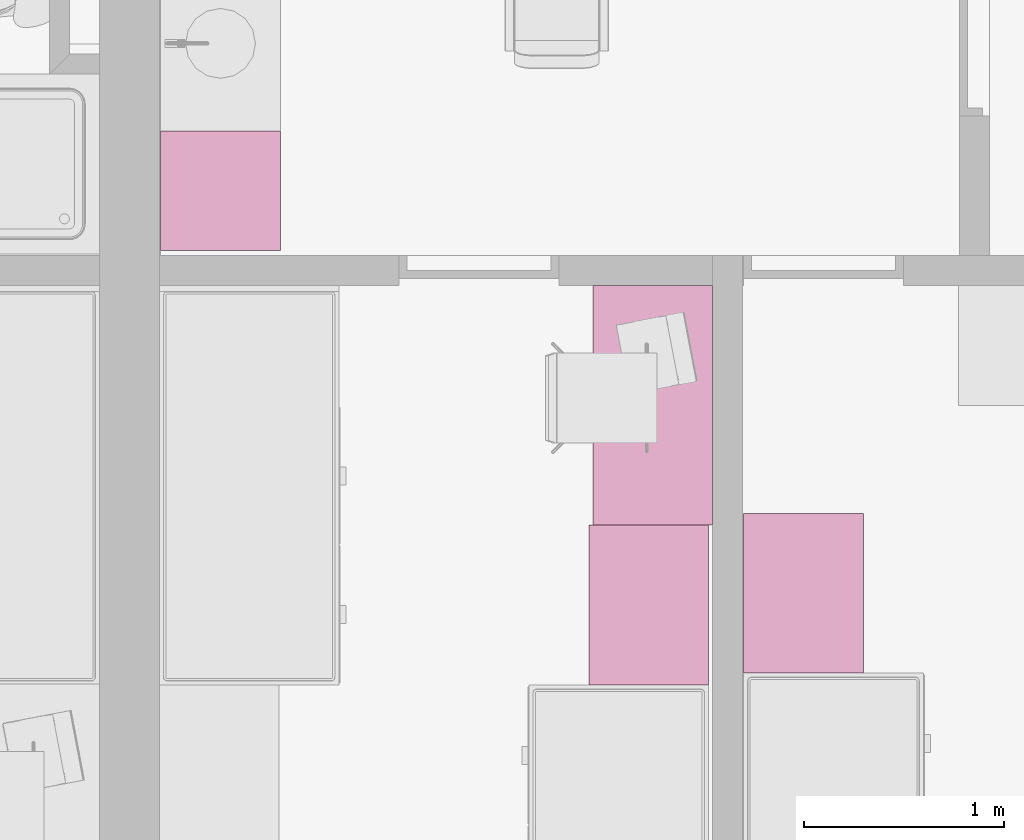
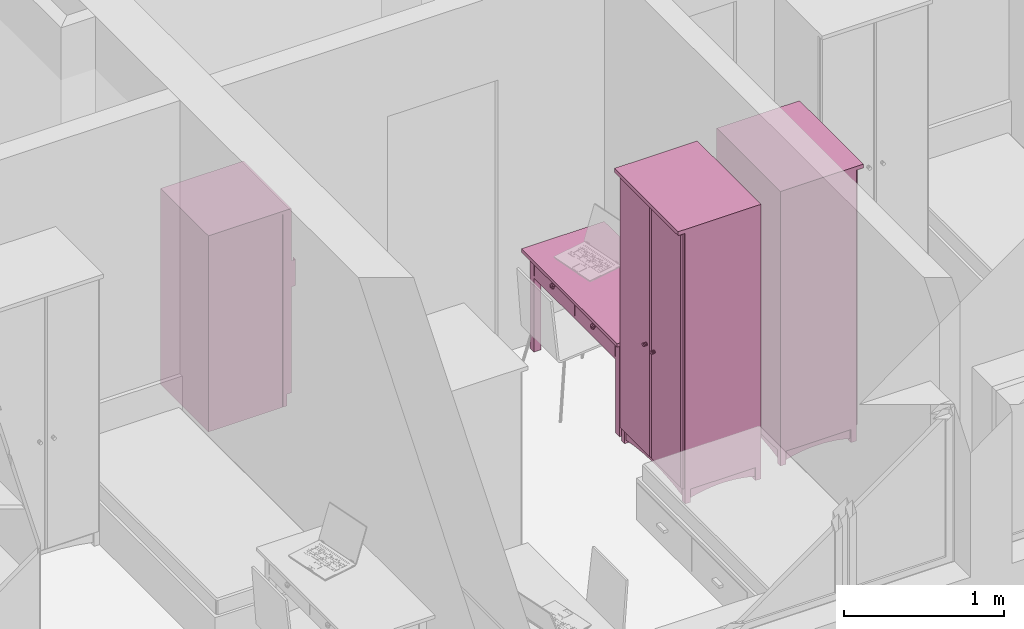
# One storey, part 100 of 172: 4 furnishings.
"""IFC2X3 building model written with IfcOpenShell, lengths in millimetres."""

from ifc_helpers import new_model, entity, si_unit, converted_unit, money_unit, direction, frame, origin_with_axes, place, context, subcontext, project, spatial, open_shell, faceted_brep, surface_model, source, transform, mapped, material, material_list, type_object, element, save


model = new_model("IFC2X3")

# Units and contexts
model_context = context("Model", 3, precision=1e-05, world=origin_with_axes(), true_north=direction((0.0, 1.0)))
body_context = subcontext(model_context, "Body", "Model", "MODEL_VIEW")
ifc_project = project(units=[si_unit("LENGTHUNIT", "METRE", prefix="MILLI"), si_unit("AREAUNIT", "SQUARE_METRE"), si_unit("VOLUMEUNIT", "CUBIC_METRE"), converted_unit("PLANEANGLEUNIT", "DEGREE", entity("IfcPlaneAngleMeasure", 0.0174532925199), si_unit("PLANEANGLEUNIT", "RADIAN"), dimensions=[0, 0, 0, 0, 0, 0, 0]), si_unit("SOLIDANGLEUNIT", "STERADIAN"), money_unit("USD"), converted_unit("TIMEUNIT", "Year", entity("IfcTimeMeasure", 31556926.0), si_unit("TIMEUNIT", "SECOND"), dimensions=[0, 0, 0, 0, 0, 0, 0]), si_unit("MASSUNIT", "GRAM"), si_unit("THERMODYNAMICTEMPERATUREUNIT", "DEGREE_CELSIUS"), si_unit("LUMINOUSINTENSITYUNIT", "LUMEN")], contexts=[model_context])

# Site, building, storey
site_placement = place(None, origin_with_axes())
site = spatial("IfcSite", under=ifc_project, at=site_placement, Name="Site", CompositionType="ELEMENT")
building_placement = place(site_placement, origin_with_axes())
building = spatial("IfcBuilding", under=site, at=building_placement, Name="Building", CompositionType="ELEMENT")
storey_placement = place(building_placement, frame((0.0, 0.0, 3200.0), z_axis=(0.0, 0.0, 1.0), x_axis=(1.0, 0.0, 0.0)))
storey = spatial("IfcBuildingStorey", under=building, at=storey_placement, Name="3KORRUS", CompositionType="ELEMENT", Elevation=3200.0)

# Furnishings
ifc_material = material(Name="Background")
ifc_material_list = material_list([ifc_material])
furnishing_element_type_1 = type_object("IfcFurnishingElementType", Name="Cupboard 19")
shared_shape_1 = source(origin_with_axes(), body_context, "Body", "Brep", [
    faceted_brep([(780.0, 600.0, 120.0), (780.0, 600.0, 2050.0), (780.0, 580.0, 2050.0), (780.0, 580.0, 120.0), (20.0, 600.0, 120.0), (20.0, 600.0, 2050.0), (20.0, 580.0, 2050.0), (20.0, 580.0, 120.0)], [[[0, 1, 2, 3]], [[4, 5, 1, 0]], [[1, 5, 6, 2]], [[3, 2, 6, 7]], [[0, 3, 7, 4]], [[7, 6, 5, 4]]]),
    faceted_brep([(0.0, 50.0, 100.0), (0.0, 600.0, 100.0), (20.0, 600.0, 100.0), (20.0, 50.0, 100.0), (0.0, 50.0, 2070.0), (0.0, 600.0, 2070.0), (20.0, 600.0, 2070.0), (20.0, 50.0, 2070.0)], [[[0, 1, 2, 3]], [[0, 4, 5, 1]], [[1, 5, 6, 2]], [[2, 6, 7, 3]], [[3, 7, 4, 0]], [[7, 6, 5, 4]]]),
    faceted_brep([(780.0, 50.0, 100.0), (780.0, 600.0, 100.0), (800.0, 600.0, 100.0), (800.0, 50.0, 100.0), (780.0, 50.0, 2070.0), (780.0, 600.0, 2070.0), (800.0, 600.0, 2070.0), (800.0, 50.0, 2070.0)], [[[0, 1, 2, 3]], [[0, 4, 5, 1]], [[1, 5, 6, 2]], [[2, 6, 7, 3]], [[3, 7, 4, 0]], [[7, 6, 5, 4]]]),
    faceted_brep([(20.0, 50.0, 100.0), (20.0, 600.0, 100.0), (780.0, 600.0, 100.0), (780.0, 50.0, 100.0), (20.0, 50.0, 120.0), (20.0, 600.0, 120.0), (780.0, 600.0, 120.0), (780.0, 50.0, 120.0)], [[[0, 1, 2, 3]], [[0, 4, 5, 1]], [[1, 5, 6, 2]], [[2, 6, 7, 3]], [[3, 7, 4, 0]], [[7, 6, 5, 4]]]),
    faceted_brep([(20.0, 50.0, 2050.0), (20.0, 600.0, 2050.0), (780.0, 600.0, 2050.0), (780.0, 50.0, 2050.0), (20.0, 50.0, 2070.0), (20.0, 600.0, 2070.0), (780.0, 600.0, 2070.0), (780.0, 50.0, 2070.0)], [[[0, 1, 2, 3]], [[0, 4, 5, 1]], [[1, 5, 6, 2]], [[2, 6, 7, 3]], [[3, 7, 4, 0]], [[7, 6, 5, 4]]]),
    faceted_brep([(0.0, 600.0, 2070.0), (0.0, 0.0, 2070.0), (0.0, 0.0, 2100.0), (0.0, 600.0, 2100.0), (800.0, 600.0, 2070.0), (800.0, 0.0, 2070.0), (800.0, 0.0, 2100.0), (800.0, 600.0, 2100.0)], [[[0, 1, 2, 3]], [[0, 4, 5, 1]], [[1, 5, 6, 2]], [[3, 2, 6, 7]], [[4, 0, 3, 7]], [[5, 4, 7, 6]]]),
    faceted_brep([(760.0, 590.0, 25.0), (760.0, 570.0, 25.0), (640.962, 570.0, 45.8), (640.962, 590.0, 45.8), (760.0, 590.0, 100.0), (760.0, 570.0, 100.0), (40.0, 570.0, 100.0), (40.0, 570.0, 25.0), (159.038, 570.0, 45.8), (279.23, 570.0, 58.32), (400.0, 570.0, 62.5), (520.77, 570.0, 58.32), (520.77, 590.0, 58.32), (400.0, 590.0, 62.5), (279.23, 590.0, 58.32), (159.038, 590.0, 45.8), (40.0, 590.0, 25.0), (40.0, 590.0, 100.0)], [[[0, 1, 2, 3]], [[4, 5, 1, 0]], [[1, 5, 6, 7, 8, 9, 10, 11, 2]], [[3, 2, 11, 12]], [[0, 3, 12, 13, 14, 15, 16, 17, 4]], [[17, 6, 5, 4]], [[16, 7, 6, 17]], [[15, 8, 7, 16]], [[14, 9, 8, 15]], [[13, 10, 9, 14]], [[12, 11, 10, 13]]]),
    faceted_brep([(760.0, 80.0, 25.0), (760.0, 60.0, 25.0), (640.962, 60.0, 45.8), (640.962, 80.0, 45.8), (760.0, 80.0, 100.0), (760.0, 60.0, 100.0), (40.0, 60.0, 100.0), (40.0, 60.0, 25.0), (159.038, 60.0, 45.8), (279.23, 60.0, 58.32), (400.0, 60.0, 62.5), (520.77, 60.0, 58.32), (520.77, 80.0, 58.32), (400.0, 80.0, 62.5), (279.23, 80.0, 58.32), (159.038, 80.0, 45.8), (40.0, 80.0, 25.0), (40.0, 80.0, 100.0)], [[[0, 1, 2, 3]], [[4, 5, 1, 0]], [[1, 5, 6, 7, 8, 9, 10, 11, 2]], [[3, 2, 11, 12]], [[0, 3, 12, 13, 14, 15, 16, 17, 4]], [[17, 6, 5, 4]], [[16, 7, 6, 17]], [[15, 8, 7, 16]], [[14, 9, 8, 15]], [[13, 10, 9, 14]], [[12, 11, 10, 13]]]),
    faceted_brep([(790.0, 90.0, 25.0), (770.0, 90.0, 25.0), (770.0, 141.266, 38.072), (790.0, 141.266, 38.072), (790.0, 90.0, 100.0), (770.0, 90.0, 100.0), (770.0, 560.0, 100.0), (770.0, 560.0, 25.0), (770.0, 508.734, 38.072), (770.0, 456.752, 47.92), (770.0, 404.257, 54.508), (770.0, 351.453, 57.808), (770.0, 298.547, 57.808), (770.0, 245.743, 54.508), (770.0, 193.248, 47.92), (790.0, 193.248, 47.92), (790.0, 245.743, 54.508), (790.0, 298.547, 57.808), (790.0, 351.453, 57.808), (790.0, 404.257, 54.508), (790.0, 456.752, 47.92), (790.0, 508.734, 38.072), (790.0, 560.0, 25.0), (790.0, 560.0, 100.0)], [[[0, 1, 2, 3]], [[4, 5, 1, 0]], [[1, 5, 6, 7, 8, 9, 10, 11, 12, 13, 14, 2]], [[3, 2, 14, 15]], [[0, 3, 15, 16, 17, 18, 19, 20, 21, 22, 23, 4]], [[23, 6, 5, 4]], [[22, 7, 6, 23]], [[21, 8, 7, 22]], [[20, 9, 8, 21]], [[19, 10, 9, 20]], [[18, 11, 10, 19]], [[17, 12, 11, 18]], [[16, 13, 12, 17]], [[15, 14, 13, 16]]]),
    faceted_brep([(30.0, 90.0, 25.0), (10.0, 90.0, 25.0), (10.0, 141.266, 38.072), (30.0, 141.266, 38.072), (30.0, 90.0, 100.0), (10.0, 90.0, 100.0), (10.0, 560.0, 100.0), (10.0, 560.0, 25.0), (10.0, 508.734, 38.072), (10.0, 456.752, 47.92), (10.0, 404.257, 54.508), (10.0, 351.453, 57.808), (10.0, 298.547, 57.808), (10.0, 245.743, 54.508), (10.0, 193.248, 47.92), (30.0, 193.248, 47.92), (30.0, 245.743, 54.508), (30.0, 298.547, 57.808), (30.0, 351.453, 57.808), (30.0, 404.257, 54.508), (30.0, 456.752, 47.92), (30.0, 508.734, 38.072), (30.0, 560.0, 25.0), (30.0, 560.0, 100.0)], [[[0, 1, 2, 3]], [[4, 5, 1, 0]], [[1, 5, 6, 7, 8, 9, 10, 11, 12, 13, 14, 2]], [[3, 2, 14, 15]], [[0, 3, 15, 16, 17, 18, 19, 20, 21, 22, 23, 4]], [[23, 6, 5, 4]], [[22, 7, 6, 23]], [[21, 8, 7, 22]], [[20, 9, 8, 21]], [[19, 10, 9, 20]], [[18, 11, 10, 19]], [[17, 12, 11, 18]], [[16, 13, 12, 17]], [[15, 14, 13, 16]]]),
    faceted_brep([(760.0, 560.0, 0.0), (760.0, 560.0, 100.0), (760.0, 600.0, 100.0), (760.0, 600.0, 0.0), (800.0, 560.0, 0.0), (800.0, 560.0, 100.0), (800.0, 600.0, 100.0), (800.0, 600.0, 0.0)], [[[0, 1, 2, 3]], [[4, 5, 1, 0]], [[1, 5, 6, 2]], [[3, 2, 6, 7]], [[0, 3, 7, 4]], [[7, 6, 5, 4]]]),
    faceted_brep([(0.0, 560.0, 0.0), (0.0, 560.0, 100.0), (0.0, 600.0, 100.0), (0.0, 600.0, 0.0), (40.0, 560.0, 0.0), (40.0, 560.0, 100.0), (40.0, 600.0, 100.0), (40.0, 600.0, 0.0)], [[[0, 1, 2, 3]], [[4, 5, 1, 0]], [[1, 5, 6, 2]], [[3, 2, 6, 7]], [[0, 3, 7, 4]], [[7, 6, 5, 4]]]),
    faceted_brep([(760.0, 50.0, 0.0), (760.0, 50.0, 100.0), (760.0, 90.0, 100.0), (760.0, 90.0, 0.0), (800.0, 50.0, 0.0), (800.0, 50.0, 100.0), (800.0, 90.0, 100.0), (800.0, 90.0, 0.0)], [[[0, 1, 2, 3]], [[4, 5, 1, 0]], [[1, 5, 6, 2]], [[3, 2, 6, 7]], [[0, 3, 7, 4]], [[7, 6, 5, 4]]]),
    faceted_brep([(0.0, 50.0, 0.0), (0.0, 50.0, 100.0), (0.0, 90.0, 100.0), (0.0, 90.0, 0.0), (40.0, 50.0, 0.0), (40.0, 50.0, 100.0), (40.0, 90.0, 100.0), (40.0, 90.0, 0.0)], [[[0, 1, 2, 3]], [[4, 5, 1, 0]], [[1, 5, 6, 2]], [[3, 2, 6, 7]], [[0, 3, 7, 4]], [[7, 6, 5, 4]]]),
    faceted_brep([(780.0, 580.0, 587.5), (780.0, 580.0, 607.5), (780.0, 50.0, 607.5), (780.0, 50.0, 587.5), (20.0, 580.0, 587.5), (20.0, 580.0, 607.5), (20.0, 50.0, 607.5), (20.0, 50.0, 587.5)], [[[0, 1, 2, 3]], [[4, 5, 1, 0]], [[1, 5, 6, 2]], [[3, 2, 6, 7]], [[0, 3, 7, 4]], [[7, 6, 5, 4]]]),
    faceted_brep([(780.0, 580.0, 1075.0), (780.0, 580.0, 1095.0), (780.0, 50.0, 1095.0), (780.0, 50.0, 1075.0), (20.0, 580.0, 1075.0), (20.0, 580.0, 1095.0), (20.0, 50.0, 1095.0), (20.0, 50.0, 1075.0)], [[[0, 1, 2, 3]], [[4, 5, 1, 0]], [[1, 5, 6, 2]], [[3, 2, 6, 7]], [[0, 3, 7, 4]], [[7, 6, 5, 4]]]),
    faceted_brep([(780.0, 580.0, 1562.5), (780.0, 580.0, 1582.5), (780.0, 50.0, 1582.5), (780.0, 50.0, 1562.5), (20.0, 580.0, 1562.5), (20.0, 580.0, 1582.5), (20.0, 50.0, 1582.5), (20.0, 50.0, 1562.5)], [[[0, 1, 2, 3]], [[4, 5, 1, 0]], [[1, 5, 6, 2]], [[3, 2, 6, 7]], [[0, 3, 7, 4]], [[7, 6, 5, 4]]]),
    faceted_brep([(789.5, 50.0, 110.5), (400.5, 50.0, 110.5), (400.5, 50.0, 2059.5), (789.5, 50.0, 2059.5), (789.5, 40.0, 110.5), (400.5, 40.0, 110.5), (400.5, 40.0, 2059.5), (789.5, 40.0, 2059.5), (779.5, 30.0, 120.5), (410.5, 30.0, 120.5), (410.5, 30.0, 2049.5), (779.5, 30.0, 2049.5)], [[[0, 1, 2, 3]], [[0, 4, 5, 1]], [[1, 5, 6, 2]], [[2, 6, 7, 3]], [[3, 7, 4, 0]], [[4, 8, 9, 5]], [[5, 9, 10, 6]], [[6, 10, 11, 7]], [[7, 11, 8, 4]], [[10, 9, 8, 11]]]),
    faceted_brep([(399.5, 50.0, 110.5), (10.5, 50.0, 110.5), (10.5, 50.0, 2059.5), (399.5, 50.0, 2059.5), (399.5, 40.0, 110.5), (10.5, 40.0, 110.5), (10.5, 40.0, 2059.5), (399.5, 40.0, 2059.5), (389.5, 30.0, 120.5), (20.5, 30.0, 120.5), (20.5, 30.0, 2049.5), (389.5, 30.0, 2049.5)], [[[0, 1, 2, 3]], [[0, 4, 5, 1]], [[1, 5, 6, 2]], [[2, 6, 7, 3]], [[3, 7, 4, 0]], [[4, 8, 9, 5]], [[5, 9, 10, 6]], [[6, 10, 11, 7]], [[7, 11, 8, 4]], [[10, 9, 8, 11]]]),
    faceted_brep([(339.608, 30.0, 954.0), (338.0, 30.0, 960.0), (339.608, 30.0, 966.0), (344.0, 30.0, 970.392), (350.0, 30.0, 972.0), (356.0, 30.0, 970.392), (360.392, 30.0, 966.0), (362.0, 30.0, 960.0), (360.392, 30.0, 954.0), (356.0, 30.0, 949.608), (350.0, 30.0, 948.0), (344.0, 30.0, 949.608), (339.608, 5.0, 954.0), (338.0, 5.0, 960.0), (339.608, 5.0, 966.0), (344.0, 5.0, 970.392), (350.0, 5.0, 972.0), (356.0, 5.0, 970.392), (360.392, 5.0, 966.0), (362.0, 5.0, 960.0), (360.392, 5.0, 954.0), (356.0, 5.0, 949.608), (350.0, 5.0, 948.0), (344.0, 5.0, 949.608)], [[[0, 1, 2, 3, 4, 5, 6, 7, 8, 9, 10, 11]], [[0, 12, 13, 1]], [[1, 13, 14, 2]], [[2, 14, 15, 3]], [[3, 15, 16, 4]], [[4, 16, 17, 5]], [[5, 17, 18, 6]], [[6, 18, 19, 7]], [[7, 19, 20, 8]], [[8, 20, 21, 9]], [[9, 21, 22, 10]], [[10, 22, 23, 11]], [[11, 23, 12, 0]], [[12, 23, 22, 21, 20, 19, 18, 17, 16, 15, 14, 13]]]),
    faceted_brep([(460.392, 30.0, 954.0), (456.0, 30.0, 949.608), (450.0, 30.0, 948.0), (444.0, 30.0, 949.608), (439.608, 30.0, 954.0), (438.0, 30.0, 960.0), (439.608, 30.0, 966.0), (444.0, 30.0, 970.392), (450.0, 30.0, 972.0), (456.0, 30.0, 970.392), (460.392, 30.0, 966.0), (462.0, 30.0, 960.0), (460.392, 5.0, 954.0), (456.0, 5.0, 949.608), (450.0, 5.0, 948.0), (444.0, 5.0, 949.608), (439.608, 5.0, 954.0), (438.0, 5.0, 960.0), (439.608, 5.0, 966.0), (444.0, 5.0, 970.392), (450.0, 5.0, 972.0), (456.0, 5.0, 970.392), (460.392, 5.0, 966.0), (462.0, 5.0, 960.0)], [[[0, 1, 2, 3, 4, 5, 6, 7, 8, 9, 10, 11]], [[1, 0, 12, 13]], [[2, 1, 13, 14]], [[3, 2, 14, 15]], [[4, 3, 15, 16]], [[5, 4, 16, 17]], [[6, 5, 17, 18]], [[7, 6, 18, 19]], [[8, 7, 19, 20]], [[9, 8, 20, 21]], [[10, 9, 21, 22]], [[11, 10, 22, 23]], [[0, 11, 23, 12]], [[12, 23, 22, 21, 20, 19, 18, 17, 16, 15, 14, 13]]]),
])
for number, where, z_axis, x_axis, name in (
    (1, (-33840.2967033, -16639.2398994, 0.0), (0.0, 0.0, 1.0), (0.0, -1.0, 0.0), "FU - 014"),
    (2, (-32465.2967033, -17379.2398994, 0.0), (0.0, 0.0, 1.0), (0.0, 1.0, 0.0), "FU - 014"),
):
    element("IfcFurnishingElement", number, at=place(storey_placement, frame(where, z_axis=z_axis, x_axis=x_axis)), inside=storey, type_object=furnishing_element_type_1, material=ifc_material_list, Name=name, context=body_context, shape_type="MappedRepresentation", body=[
        mapped(shared_shape_1, transform((0.0, 0.0, 0.0))),
    ])
furnishing_element_type_2 = type_object("IfcFurnishingElementType", Name="Rectangular Table 01 19")
shared_shape_2 = source(origin_with_axes(), body_context, "Body", "Brep", [
    faceted_brep([(90.0, 40.0, 0.0), (40.0, 40.0, 0.0), (40.0, 90.0, 0.0), (90.0, 90.0, 0.0), (90.0, 40.0, 725.0), (40.0, 40.0, 725.0), (40.0, 90.0, 725.0), (90.0, 90.0, 725.0)], [[[0, 1, 2, 3]], [[1, 0, 4, 5]], [[2, 1, 5, 6]], [[3, 2, 6, 7]], [[0, 3, 7, 4]], [[5, 4, 7, 6]]]),
    faceted_brep([(1160.0, 40.0, 0.0), (1110.0, 40.0, 0.0), (1110.0, 90.0, 0.0), (1160.0, 90.0, 0.0), (1160.0, 40.0, 725.0), (1110.0, 40.0, 725.0), (1110.0, 90.0, 725.0), (1160.0, 90.0, 725.0)], [[[0, 1, 2, 3]], [[1, 0, 4, 5]], [[2, 1, 5, 6]], [[3, 2, 6, 7]], [[0, 3, 7, 4]], [[5, 4, 7, 6]]]),
    faceted_brep([(90.0, 510.0, 0.0), (40.0, 510.0, 0.0), (40.0, 560.0, 0.0), (90.0, 560.0, 0.0), (90.0, 510.0, 725.0), (40.0, 510.0, 725.0), (40.0, 560.0, 725.0), (90.0, 560.0, 725.0)], [[[0, 1, 2, 3]], [[1, 0, 4, 5]], [[2, 1, 5, 6]], [[3, 2, 6, 7]], [[0, 3, 7, 4]], [[5, 4, 7, 6]]]),
    faceted_brep([(1160.0, 510.0, 0.0), (1110.0, 510.0, 0.0), (1110.0, 560.0, 0.0), (1160.0, 560.0, 0.0), (1160.0, 510.0, 725.0), (1110.0, 510.0, 725.0), (1110.0, 560.0, 725.0), (1160.0, 560.0, 725.0)], [[[0, 1, 2, 3]], [[1, 0, 4, 5]], [[2, 1, 5, 6]], [[3, 2, 6, 7]], [[0, 3, 7, 4]], [[5, 4, 7, 6]]]),
    faceted_brep([(1160.0, 40.0, 565.0), (40.0, 40.0, 565.0), (40.0, 560.0, 565.0), (1160.0, 560.0, 565.0), (1160.0, 40.0, 585.0), (40.0, 40.0, 585.0), (40.0, 560.0, 585.0), (1160.0, 560.0, 585.0)], [[[0, 1, 2, 3]], [[1, 0, 4, 5]], [[2, 1, 5, 6]], [[3, 2, 6, 7]], [[0, 3, 7, 4]], [[5, 4, 7, 6]]]),
    faceted_brep([(1110.0, 52.5, 585.0), (90.0, 52.5, 585.0), (90.0, 77.5, 585.0), (1110.0, 77.5, 585.0), (1110.0, 52.5, 745.0), (90.0, 52.5, 745.0), (90.0, 77.5, 745.0), (1110.0, 77.5, 745.0)], [[[0, 1, 2, 3]], [[1, 0, 4, 5]], [[2, 1, 5, 6]], [[3, 2, 6, 7]], [[0, 3, 7, 4]], [[5, 4, 7, 6]]]),
    faceted_brep([(77.5, 90.0, 585.0), (52.5, 90.0, 585.0), (52.5, 510.0, 585.0), (77.5, 510.0, 585.0), (77.5, 90.0, 745.0), (52.5, 90.0, 745.0), (52.5, 510.0, 745.0), (77.5, 510.0, 745.0)], [[[0, 1, 2, 3]], [[1, 0, 4, 5]], [[2, 1, 5, 6]], [[3, 2, 6, 7]], [[0, 3, 7, 4]], [[5, 4, 7, 6]]]),
    faceted_brep([(90.0, 547.5, 585.0), (1110.0, 547.5, 585.0), (1110.0, 522.5, 585.0), (90.0, 522.5, 585.0), (90.0, 547.5, 745.0), (1110.0, 547.5, 745.0), (1110.0, 522.5, 745.0), (90.0, 522.5, 745.0)], [[[0, 1, 2, 3]], [[1, 0, 4, 5]], [[2, 1, 5, 6]], [[3, 2, 6, 7]], [[0, 3, 7, 4]], [[5, 4, 7, 6]]]),
    faceted_brep([(1122.5, 510.0, 585.0), (1147.5, 510.0, 585.0), (1147.5, 90.0, 585.0), (1122.5, 90.0, 585.0), (1122.5, 510.0, 745.0), (1147.5, 510.0, 745.0), (1147.5, 90.0, 745.0), (1122.5, 90.0, 745.0)], [[[0, 1, 2, 3]], [[1, 0, 4, 5]], [[2, 1, 5, 6]], [[3, 2, 6, 7]], [[0, 3, 7, 4]], [[5, 4, 7, 6]]]),
    faceted_brep([(597.5, 40.0, 585.0), (95.0, 40.0, 585.0), (95.0, 60.0, 585.0), (597.5, 60.0, 585.0), (597.5, 40.0, 745.0), (95.0, 40.0, 745.0), (95.0, 60.0, 745.0), (597.5, 60.0, 745.0)], [[[0, 1, 2, 3]], [[1, 0, 4, 5]], [[2, 1, 5, 6]], [[3, 2, 6, 7]], [[0, 3, 7, 4]], [[5, 4, 7, 6]]]),
    faceted_brep([(1105.0, 40.0, 585.0), (602.5, 40.0, 585.0), (602.5, 60.0, 585.0), (1105.0, 60.0, 585.0), (1105.0, 40.0, 745.0), (602.5, 40.0, 745.0), (602.5, 60.0, 745.0), (1105.0, 60.0, 745.0)], [[[0, 1, 2, 3]], [[1, 0, 4, 5]], [[2, 1, 5, 6]], [[3, 2, 6, 7]], [[0, 3, 7, 4]], [[5, 4, 7, 6]]]),
    faceted_brep([(354.91, 40.0, 660.0), (351.25, 40.0, 656.34), (346.25, 40.0, 655.0), (341.25, 40.0, 656.34), (337.59, 40.0, 660.0), (336.25, 40.0, 665.0), (337.59, 40.0, 670.0), (341.25, 40.0, 673.66), (346.25, 40.0, 675.0), (351.25, 40.0, 673.66), (354.91, 40.0, 670.0), (356.25, 40.0, 665.0), (354.91, 25.0, 660.0), (351.25, 25.0, 656.34), (346.25, 25.0, 655.0), (341.25, 25.0, 656.34), (337.59, 25.0, 660.0), (336.25, 25.0, 665.0), (337.59, 25.0, 670.0), (341.25, 25.0, 673.66), (346.25, 25.0, 675.0), (351.25, 25.0, 673.66), (354.91, 25.0, 670.0), (356.25, 25.0, 665.0)], [[[0, 1, 2, 3, 4, 5, 6, 7, 8, 9, 10, 11]], [[1, 0, 12, 13]], [[2, 1, 13, 14]], [[3, 2, 14, 15]], [[4, 3, 15, 16]], [[5, 4, 16, 17]], [[6, 5, 17, 18]], [[7, 6, 18, 19]], [[8, 7, 19, 20]], [[9, 8, 20, 21]], [[10, 9, 21, 22]], [[11, 10, 22, 23]], [[0, 11, 23, 12]], [[12, 23, 22, 21, 20, 19, 18, 17, 16, 15, 14, 13]]]),
    faceted_brep([(356.25, 12.01, 665.0), (346.25, 10.0, 665.0), (354.91, 12.01, 660.0), (354.91, 12.01, 670.0), (351.25, 12.01, 656.34), (363.571, 17.5, 665.0), (361.25, 17.5, 656.34), (351.25, 12.01, 673.66), (361.25, 17.5, 673.66), (346.25, 12.01, 655.0), (354.91, 17.5, 650.0), (366.25, 25.0, 665.0), (363.571, 25.0, 655.0), (346.25, 12.01, 675.0), (354.91, 17.5, 680.0), (363.571, 25.0, 675.0), (341.25, 12.01, 656.34), (346.25, 17.5, 647.679), (356.25, 25.0, 647.679), (346.25, 25.0, 645.0), (336.25, 25.0, 647.679), (328.929, 25.0, 655.0), (326.25, 25.0, 665.0), (328.929, 25.0, 675.0), (336.25, 25.0, 682.321), (346.25, 25.0, 685.0), (356.25, 25.0, 682.321), (341.25, 12.01, 673.66), (346.25, 17.5, 682.321), (337.59, 12.01, 660.0), (337.59, 17.5, 650.0), (331.25, 17.5, 656.34), (328.929, 17.5, 665.0), (331.25, 17.5, 673.66), (337.59, 17.5, 680.0), (337.59, 12.01, 670.0), (336.25, 12.01, 665.0)], [[[0, 1, 2]], [[3, 1, 0]], [[2, 1, 4]], [[5, 0, 2, 6]], [[7, 1, 3]], [[8, 3, 0, 5]], [[4, 1, 9]], [[6, 2, 4, 10]], [[11, 5, 6, 12]], [[13, 1, 7]], [[14, 7, 3, 8]], [[15, 8, 5, 11]], [[9, 1, 16]], [[10, 4, 9, 17]], [[12, 6, 10, 18]], [[12, 18, 19, 20, 21, 22, 23, 24, 25, 26, 15, 11]], [[27, 1, 13]], [[28, 13, 7, 14]], [[26, 14, 8, 15]], [[16, 1, 29]], [[17, 9, 16, 30]], [[18, 10, 17, 19]], [[19, 17, 30, 20]], [[20, 30, 31, 21]], [[21, 31, 32, 22]], [[22, 32, 33, 23]], [[23, 33, 34, 24]], [[24, 34, 28, 25]], [[25, 28, 14, 26]], [[35, 1, 27]], [[34, 27, 13, 28]], [[29, 1, 36]], [[30, 16, 29, 31]], [[31, 29, 36, 32]], [[32, 36, 35, 33]], [[33, 35, 27, 34]], [[36, 1, 35]]]),
    faceted_brep([(862.41, 40.0, 660.0), (858.75, 40.0, 656.34), (853.75, 40.0, 655.0), (848.75, 40.0, 656.34), (845.09, 40.0, 660.0), (843.75, 40.0, 665.0), (845.09, 40.0, 670.0), (848.75, 40.0, 673.66), (853.75, 40.0, 675.0), (858.75, 40.0, 673.66), (862.41, 40.0, 670.0), (863.75, 40.0, 665.0), (862.41, 25.0, 660.0), (858.75, 25.0, 656.34), (853.75, 25.0, 655.0), (848.75, 25.0, 656.34), (845.09, 25.0, 660.0), (843.75, 25.0, 665.0), (845.09, 25.0, 670.0), (848.75, 25.0, 673.66), (853.75, 25.0, 675.0), (858.75, 25.0, 673.66), (862.41, 25.0, 670.0), (863.75, 25.0, 665.0)], [[[0, 1, 2, 3, 4, 5, 6, 7, 8, 9, 10, 11]], [[1, 0, 12, 13]], [[2, 1, 13, 14]], [[3, 2, 14, 15]], [[4, 3, 15, 16]], [[5, 4, 16, 17]], [[6, 5, 17, 18]], [[7, 6, 18, 19]], [[8, 7, 19, 20]], [[9, 8, 20, 21]], [[10, 9, 21, 22]], [[11, 10, 22, 23]], [[0, 11, 23, 12]], [[12, 23, 22, 21, 20, 19, 18, 17, 16, 15, 14, 13]]]),
    faceted_brep([(863.75, 12.01, 665.0), (853.75, 10.0, 665.0), (862.41, 12.01, 660.0), (862.41, 12.01, 670.0), (858.75, 12.01, 656.34), (871.071, 17.5, 665.0), (868.75, 17.5, 656.34), (858.75, 12.01, 673.66), (868.75, 17.5, 673.66), (853.75, 12.01, 655.0), (862.41, 17.5, 650.0), (873.75, 25.0, 665.0), (871.071, 25.0, 655.0), (853.75, 12.01, 675.0), (862.41, 17.5, 680.0), (871.071, 25.0, 675.0), (848.75, 12.01, 656.34), (853.75, 17.5, 647.679), (863.75, 25.0, 647.679), (853.75, 25.0, 645.0), (843.75, 25.0, 647.679), (836.429, 25.0, 655.0), (833.75, 25.0, 665.0), (836.429, 25.0, 675.0), (843.75, 25.0, 682.321), (853.75, 25.0, 685.0), (863.75, 25.0, 682.321), (848.75, 12.01, 673.66), (853.75, 17.5, 682.321), (845.09, 12.01, 660.0), (845.09, 17.5, 650.0), (838.75, 17.5, 656.34), (836.429, 17.5, 665.0), (838.75, 17.5, 673.66), (845.09, 17.5, 680.0), (845.09, 12.01, 670.0), (843.75, 12.01, 665.0)], [[[0, 1, 2]], [[3, 1, 0]], [[2, 1, 4]], [[5, 0, 2, 6]], [[7, 1, 3]], [[8, 3, 0, 5]], [[4, 1, 9]], [[6, 2, 4, 10]], [[11, 5, 6, 12]], [[13, 1, 7]], [[14, 7, 3, 8]], [[15, 8, 5, 11]], [[9, 1, 16]], [[10, 4, 9, 17]], [[12, 6, 10, 18]], [[12, 18, 19, 20, 21, 22, 23, 24, 25, 26, 15, 11]], [[27, 1, 13]], [[28, 13, 7, 14]], [[26, 14, 8, 15]], [[16, 1, 29]], [[17, 9, 16, 30]], [[18, 10, 17, 19]], [[19, 17, 30, 20]], [[20, 30, 31, 21]], [[21, 31, 32, 22]], [[22, 32, 33, 23]], [[23, 33, 34, 24]], [[24, 34, 28, 25]], [[25, 28, 14, 26]], [[35, 1, 27]], [[34, 27, 13, 28]], [[29, 1, 36]], [[30, 16, 29, 31]], [[31, 29, 36, 32]], [[32, 36, 35, 33]], [[33, 35, 27, 34]], [[36, 1, 35]]]),
    faceted_brep([(1200.0, 0.0, 725.0), (0.0, 0.0, 725.0), (0.0, 600.0, 725.0), (1200.0, 600.0, 725.0), (1200.0, 0.0, 750.0), (0.0, 0.0, 750.0), (0.0, 600.0, 750.0), (1200.0, 600.0, 750.0)], [[[0, 1, 2, 3]], [[1, 0, 4, 5]], [[2, 1, 5, 6]], [[3, 2, 6, 7]], [[0, 3, 7, 4]], [[5, 4, 7, 6]]]),
])
furnishing_1_placement = place(storey_placement, frame((-33820.2967033, -15439.2398994, 0.0), z_axis=(0.0, 0.0, 1.0), x_axis=(0.0, -1.0, 0.0)))
element("IfcFurnishingElement", 3, at=furnishing_1_placement, inside=storey, type_object=furnishing_element_type_2, material=ifc_material_list, Name="FU - 011", context=body_context, shape_type="MappedRepresentation", body=[
    mapped(shared_shape_2, transform((0.0, 0.0, 0.0))),
])
furnishing_element_type_3 = type_object("IfcFurnishingElementType", Name="Refrigerator 19")
shared_shape_3 = source(origin_with_axes(), body_context, "Body", "SurfaceModel", [
    faceted_brep([(0.0, 0.0, 1475.0), (0.0, 0.0, 1500.0), (-600.0, 0.0, 1500.0), (-600.0, 0.0, 1475.0), (0.0, 600.0, 1475.0), (0.0, 600.0, 1500.0), (-600.0, 600.0, 1500.0), (-600.0, 600.0, 1475.0)], [[[0, 1, 2, 3]], [[4, 5, 1, 0]], [[1, 5, 6, 2]], [[3, 2, 6, 7]], [[0, 3, 7, 4]], [[7, 6, 5, 4]]]),
    faceted_brep([(0.0, 65.0, 0.0), (0.0, 65.0, 1475.0), (-600.0, 65.0, 1475.0), (-600.0, 65.0, 0.0), (0.0, 600.0, 0.0), (0.0, 600.0, 1475.0), (-600.0, 600.0, 1475.0), (-600.0, 600.0, 0.0)], [[[0, 1, 2, 3]], [[4, 5, 1, 0]], [[1, 5, 6, 2]], [[3, 2, 6, 7]], [[0, 3, 7, 4]], [[7, 6, 5, 4]]]),
    faceted_brep([(0.0, 30.0, 0.0), (0.0, 30.0, 90.0), (-600.0, 30.0, 90.0), (-600.0, 30.0, 0.0), (0.0, 60.0, 0.0), (0.0, 60.0, 90.0), (-600.0, 60.0, 90.0), (-600.0, 60.0, 0.0)], [[[0, 1, 2, 3]], [[4, 5, 1, 0]], [[1, 5, 6, 2]], [[3, 2, 6, 7]], [[0, 3, 7, 4]], [[7, 6, 5, 4]]]),
    faceted_brep([(0.0, 60.0, 90.0), (0.0, 0.0, 90.0), (-600.0, 0.0, 90.0), (-600.0, 60.0, 90.0), (0.0, 60.0, 1474.5), (0.0, 0.0, 1474.5), (-600.0, 0.0, 1474.5), (-600.0, 60.0, 1474.5)], [[[0, 1, 2, 3]], [[4, 5, 1, 0]], [[1, 5, 6, 2]], [[3, 2, 6, 7]], [[0, 3, 7, 4]], [[7, 6, 5, 4]]]),
    surface_model("IfcShellBasedSurfaceModel", [(-600.0, -30.0, 900.0), (-600.0, 0.0, 900.0), (-600.0, 0.0, 1100.0), (-600.0, -30.0, 1100.0)], [open_shell([[[0, 1, 2, 3]]])]),
    surface_model("IfcShellBasedSurfaceModel", [(-600.0, -30.0, 900.0), (-570.0, -30.0, 900.0), (-570.0, -30.0, 1100.0), (-600.0, -30.0, 1100.0)], [open_shell([[[0, 1, 2, 3]]])]),
])
furnishing_2_placement = place(storey_placement, frame((-35384.008308, -14664.7705299, 0.0), z_axis=(0.0, 0.0, 1.0), x_axis=(0.0, 1.0, 0.0)))
element("IfcFurnishingElement", 4, at=furnishing_2_placement, inside=storey, type_object=furnishing_element_type_3, material=ifc_material_list, Name="FU - 007", context=body_context, shape_type="MappedRepresentation", body=[
    mapped(shared_shape_3, transform((0.0, 0.0, 0.0))),
])

save(model, "model.ifc")
